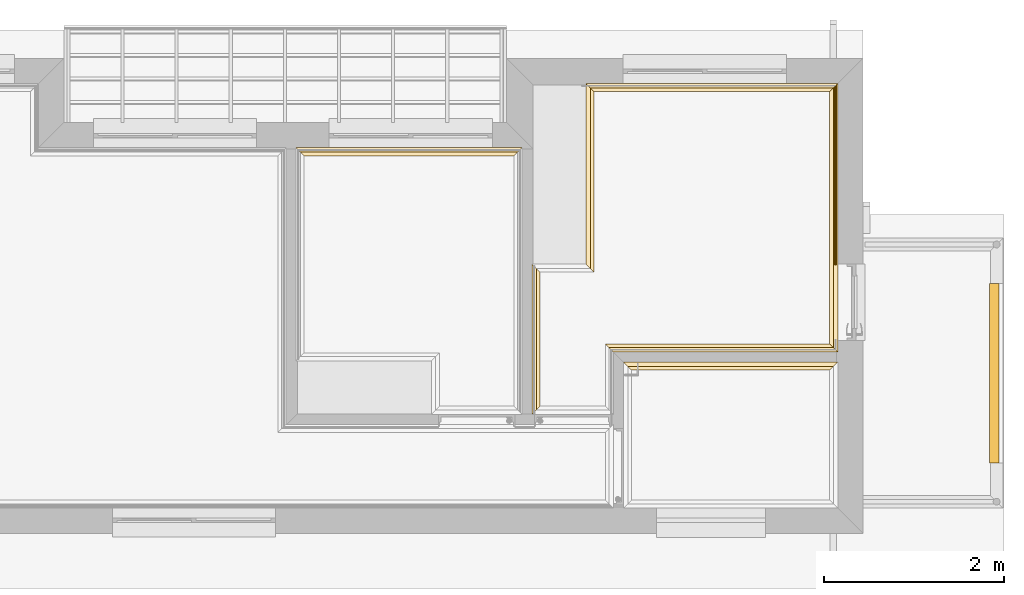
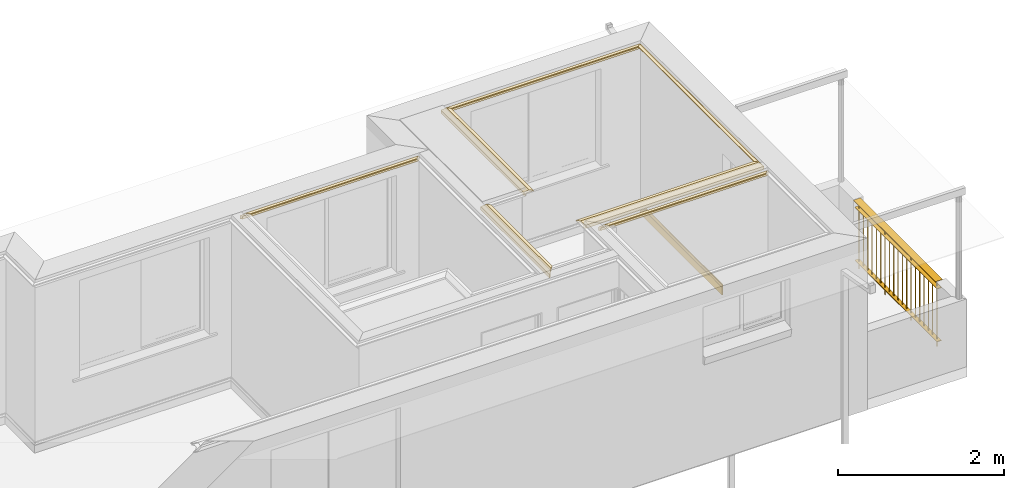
# One storey, part 14 of 18: 8 coverings, 1 railing.
"""IFC2X3 building model written with IfcOpenShell, lengths in millimetres."""

from ifc_helpers import new_model, entity, si_unit, converted_unit, money_unit, direction, frame, origin_with_axes, place, context, subcontext, project, spatial, faceted_brep, source, transform, mapped, material, type_object, element, save


model = new_model("IFC2X3")

# Units and contexts
model_context = context("Model", 3, precision=1e-05, world=origin_with_axes(), true_north=direction((0.0, 1.0)))
body_context = subcontext(model_context, "Body", "Model", "MODEL_VIEW")
ifc_project = project(units=[si_unit("LENGTHUNIT", "METRE", prefix="MILLI"), si_unit("AREAUNIT", "SQUARE_METRE"), si_unit("VOLUMEUNIT", "CUBIC_METRE"), converted_unit("PLANEANGLEUNIT", "DEGREE", entity("IfcPlaneAngleMeasure", 0.0174532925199), si_unit("PLANEANGLEUNIT", "RADIAN"), dimensions=[0, 0, 0, 0, 0, 0, 0]), si_unit("SOLIDANGLEUNIT", "STERADIAN"), money_unit("AUD"), si_unit("TIMEUNIT", "SECOND"), si_unit("MASSUNIT", "GRAM"), si_unit("THERMODYNAMICTEMPERATUREUNIT", "DEGREE_CELSIUS"), si_unit("LUMINOUSINTENSITYUNIT", "LUMEN")], contexts=[model_context])

# Site, building, storey
site_placement = place(None, origin_with_axes())
site = spatial("IfcSite", under=ifc_project, at=site_placement, Name="Lot 1. East Hills", CompositionType="ELEMENT")
building_placement = place(site_placement, origin_with_axes())
building = spatial("IfcBuilding", under=site, at=building_placement, Name="Proposed Units 7 & 8", CompositionType="ELEMENT")
storey_placement = place(building_placement, frame((0.0, 0.0, 5859.0), z_axis=(0.0, 0.0, 1.0), x_axis=(1.0, 0.0, 0.0)))
storey = spatial("IfcBuildingStorey", under=building, at=storey_placement, Name="Level 1", CompositionType="ELEMENT", Elevation=5859.0)

# Coverings
ifc_material = material(Name="50 %")
covering_type = type_object("IfcCoveringType", Name="Molding Straight 12", PredefinedType="NOTDEFINED")
shared_shape_1 = source(origin_with_axes(), body_context, "Body", "Brep", [
    faceted_brep([(-2000.00046616, 0.0, -97.7142857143), (0.0, 0.0, -97.7142857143), (-20.5714285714, -20.5714285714, -97.7142857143), (-2020.57189473, -20.5714285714, -97.7142857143), (-2000.00046616, 0.0, -48.8571428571), (0.0, 0.0, -48.8571428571), (-48.8571428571, -48.8571428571, 0.0), (-90.0, -90.0, 0.0), (-90.0, -90.0, -12.8571428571), (-74.5714285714, -74.5714285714, -12.8571428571), (-74.5714285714, -74.5714285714, -25.7142857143), (-60.5952001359, -60.5952001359, -27.5542910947), (-47.5714285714, -47.5714285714, -32.9489139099), (-36.3876623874, -36.3876623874, -41.5305195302), (-27.8060567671, -27.8060567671, -52.7142857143), (-22.4114339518, -22.4114339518, -65.7380572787), (-20.5714285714, -20.5714285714, -79.7142857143), (-2020.57189473, -20.5714285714, -79.7142857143), (-2022.41190011, -22.4114339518, -65.7380572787), (-2027.80652293, -27.8060567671, -52.7142857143), (-2036.38812855, -36.3876623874, -41.5305195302), (-2047.57189473, -47.5714285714, -32.9489139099), (-2060.5956663, -60.5952001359, -27.5542910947), (-2074.57189473, -74.5714285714, -25.7142857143), (-2074.57189473, -74.5714285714, -12.8571428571), (-2090.00046616, -90.0, -12.8571428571), (-2090.00046616, -90.0, 0.0), (-2048.85760902, -48.8571428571, 0.0)], [[[0, 1, 2, 3]], [[4, 5, 1, 0]], [[1, 5, 6, 7, 8, 9, 10, 11, 12, 13, 14, 15, 16, 2]], [[3, 2, 16, 17]], [[0, 3, 17, 18, 19, 20, 21, 22, 23, 24, 25, 26, 27, 4]], [[27, 6, 5, 4]], [[26, 7, 6, 27]], [[25, 8, 7, 26]], [[24, 9, 8, 25]], [[23, 10, 9, 24]], [[22, 11, 10, 23]], [[21, 12, 11, 22]], [[20, 13, 12, 21]], [[19, 14, 13, 20]], [[18, 15, 14, 19]], [[17, 16, 15, 18]]]),
])
covering_1_placement = place(storey_placement, frame((12760.6569851, 4983.00000067, 2523.0), z_axis=(0.0, 0.0, 1.0), x_axis=(0.0, 1.0, 0.0)))
element("IfcCovering", 1, at=covering_1_placement, inside=storey, type_object=covering_type, material=ifc_material, Name="CEL_MOD_127 - Molding Straight 12 - object -", PredefinedType="NOTDEFINED", context=body_context, shape_type="MappedRepresentation", body=[
    mapped(shared_shape_1, transform((0.0, 0.0, 0.0))),
])
shared_shape_2 = source(origin_with_axes(), body_context, "Body", "Brep", [
    faceted_brep([(-2505.00000164, 0.0, -97.7142857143), (0.0, 0.0, -97.7142857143), (-20.5714285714, -20.5714285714, -97.7142857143), (-2484.42857307, -20.5714285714, -97.7142857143), (-2505.00000164, 0.0, -48.8571428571), (0.0, 0.0, -48.8571428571), (-48.8571428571, -48.8571428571, 0.0), (-90.0, -90.0, 0.0), (-90.0, -90.0, -12.8571428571), (-74.5714285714, -74.5714285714, -12.8571428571), (-74.5714285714, -74.5714285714, -25.7142857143), (-60.5952001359, -60.5952001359, -27.5542910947), (-47.5714285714, -47.5714285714, -32.9489139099), (-36.3876623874, -36.3876623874, -41.5305195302), (-27.8060567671, -27.8060567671, -52.7142857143), (-22.4114339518, -22.4114339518, -65.7380572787), (-20.5714285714, -20.5714285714, -79.7142857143), (-2484.42857307, -20.5714285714, -79.7142857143), (-2482.58856769, -22.4114339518, -65.7380572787), (-2477.19394487, -27.8060567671, -52.7142857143), (-2468.61233925, -36.3876623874, -41.5305195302), (-2457.42857307, -47.5714285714, -32.9489139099), (-2444.4048015, -60.5952001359, -27.5542910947), (-2430.42857307, -74.5714285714, -25.7142857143), (-2430.42857307, -74.5714285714, -12.8571428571), (-2415.00000164, -90.0, -12.8571428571), (-2415.00000164, -90.0, 0.0), (-2456.14285878, -48.8571428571, 0.0)], [[[0, 1, 2, 3]], [[4, 5, 1, 0]], [[1, 5, 6, 7, 8, 9, 10, 11, 12, 13, 14, 15, 16, 2]], [[3, 2, 16, 17]], [[0, 3, 17, 18, 19, 20, 21, 22, 23, 24, 25, 26, 27, 4]], [[27, 6, 5, 4]], [[26, 7, 6, 27]], [[25, 8, 7, 26]], [[24, 9, 8, 25]], [[23, 10, 9, 24]], [[22, 11, 10, 23]], [[21, 12, 11, 22]], [[20, 13, 12, 21]], [[19, 14, 13, 20]], [[18, 15, 14, 19]], [[17, 16, 15, 18]]]),
])
covering_2_placement = place(storey_placement, frame((12050.0000006, 4273.00000069, 2523.0), z_axis=(0.0, 0.0, 1.0), x_axis=(1.0, 0.0, 0.0)))
element("IfcCovering", 2, at=covering_2_placement, inside=storey, type_object=covering_type, material=ifc_material, Name="CEL_MOD_122 - Molding Straight 12 - object -", PredefinedType="NOTDEFINED", context=body_context, shape_type="MappedRepresentation", body=[
    mapped(shared_shape_2, transform((0.0, 0.0, 0.0))),
])
shared_shape_3 = source(origin_with_axes(), body_context, "Body", "Brep", [
    faceted_brep([(-2374.99999946, 0.0, -97.7142857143), (0.0, 0.0, -97.7142857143), (-20.5714285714, -20.5714285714, -97.7142857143), (-2354.42857089, -20.5714285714, -97.7142857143), (-2374.99999946, 0.0, -48.8571428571), (0.0, 0.0, -48.8571428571), (-48.8571428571, -48.8571428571, 0.0), (-90.0, -90.0, 0.0), (-90.0, -90.0, -12.8571428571), (-74.5714285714, -74.5714285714, -12.8571428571), (-74.5714285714, -74.5714285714, -25.7142857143), (-60.5952001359, -60.5952001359, -27.5542910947), (-47.5714285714, -47.5714285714, -32.9489139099), (-36.3876623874, -36.3876623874, -41.5305195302), (-27.8060567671, -27.8060567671, -52.7142857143), (-22.4114339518, -22.4114339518, -65.7380572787), (-20.5714285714, -20.5714285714, -79.7142857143), (-2354.42857089, -20.5714285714, -79.7142857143), (-2352.58856551, -22.4114339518, -65.7380572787), (-2347.1939427, -27.8060567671, -52.7142857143), (-2338.61233708, -36.3876623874, -41.5305195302), (-2327.42857089, -47.5714285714, -32.9489139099), (-2314.40479933, -60.5952001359, -27.5542910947), (-2300.42857089, -74.5714285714, -25.7142857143), (-2300.42857089, -74.5714285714, -12.8571428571), (-2284.99999946, -90.0, -12.8571428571), (-2284.99999946, -90.0, 0.0), (-2326.14285661, -48.8571428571, 0.0)], [[[0, 1, 2, 3]], [[4, 5, 1, 0]], [[1, 5, 6, 7, 8, 9, 10, 11, 12, 13, 14, 15, 16, 2]], [[3, 2, 16, 17]], [[0, 3, 17, 18, 19, 20, 21, 22, 23, 24, 25, 26, 27, 4]], [[27, 6, 5, 4]], [[26, 7, 6, 27]], [[25, 8, 7, 26]], [[24, 9, 8, 25]], [[23, 10, 9, 24]], [[22, 11, 10, 23]], [[21, 12, 11, 22]], [[20, 13, 12, 21]], [[19, 14, 13, 20]], [[18, 15, 14, 19]], [[17, 16, 15, 18]]]),
])
covering_3_placement = place(storey_placement, frame((15549.9999992, 1897.99999873, 2523.0), z_axis=(0.0, 0.0, 1.0), x_axis=(1.0, 0.0, 0.0)))
element("IfcCovering", 3, at=covering_3_placement, inside=storey, type_object=covering_type, material=ifc_material, Name="CEL_MOD_119 - Molding Straight 12 - object -", PredefinedType="NOTDEFINED", context=body_context, shape_type="MappedRepresentation", body=[
    mapped(shared_shape_3, transform((0.0, 0.0, 0.0))),
])
shared_shape_4 = source(origin_with_axes(), body_context, "Body", "Brep", [
    faceted_brep([(2975.00000194, 0.0, -97.7142857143), (2954.42857337, -20.5714285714, -97.7142857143), (20.5714285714, -20.5714285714, -97.7142857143), (0.0, 0.0, -97.7142857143), (2975.00000194, 0.0, -48.8571428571), (2926.14285908, -48.8571428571, 0.0), (2885.00000194, -90.0, 0.0), (2885.00000194, -90.0, -12.8571428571), (2900.42857337, -74.5714285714, -12.8571428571), (2900.42857337, -74.5714285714, -25.7142857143), (2914.4048018, -60.5952001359, -27.5542910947), (2927.42857337, -47.5714285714, -32.9489139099), (2938.61233955, -36.3876623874, -41.5305195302), (2947.19394517, -27.8060567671, -52.7142857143), (2952.58856799, -22.4114339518, -65.7380572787), (2954.42857337, -20.5714285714, -79.7142857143), (20.5714285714, -20.5714285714, -79.7142857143), (22.4114339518, -22.4114339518, -65.7380572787), (27.8060567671, -27.8060567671, -52.7142857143), (36.3876623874, -36.3876623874, -41.5305195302), (47.5714285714, -47.5714285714, -32.9489139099), (60.5952001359, -60.5952001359, -27.5542910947), (74.5714285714, -74.5714285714, -25.7142857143), (74.5714285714, -74.5714285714, -12.8571428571), (90.0, -90.0, -12.8571428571), (90.0, -90.0, 0.0), (48.8571428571, -48.8571428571, 0.0), (0.0, 0.0, -48.8571428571)], [[[0, 1, 2, 3]], [[0, 4, 5, 6, 7, 8, 9, 10, 11, 12, 13, 14, 15, 1]], [[1, 15, 16, 2]], [[3, 2, 16, 17, 18, 19, 20, 21, 22, 23, 24, 25, 26, 27]], [[4, 0, 3, 27]], [[5, 4, 27, 26]], [[6, 5, 26, 25]], [[7, 6, 25, 24]], [[8, 7, 24, 23]], [[9, 8, 23, 22]], [[10, 9, 22, 21]], [[11, 10, 21, 20]], [[12, 11, 20, 19]], [[13, 12, 19, 18]], [[14, 13, 18, 17]], [[15, 14, 17, 16]]]),
])
covering_4_placement = place(storey_placement, frame((15550.0000007, 4983.00000067, 2523.0), z_axis=(0.0, 0.0, 1.0), x_axis=(0.0, -1.0, 0.0)))
element("IfcCovering", 4, at=covering_4_placement, inside=storey, type_object=covering_type, material=ifc_material, Name="CEL_MOD_106 - Molding Straight 12 - object -", PredefinedType="NOTDEFINED", context=body_context, shape_type="MappedRepresentation", body=[
    mapped(shared_shape_4, transform((0.0, 0.0, 0.0))),
])
shared_shape_5 = source(origin_with_axes(), body_context, "Body", "Brep", [
    faceted_brep([(2485.00000008, 0.0, -97.7142857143), (2505.57142865, -20.5714285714, -97.7142857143), (20.5714285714, -20.5714285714, -97.7142857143), (0.0, 0.0, -97.7142857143), (2485.00000008, 0.0, -48.8571428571), (2533.85714293, -48.8571428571, 0.0), (2575.00000008, -90.0, 0.0), (2575.00000008, -90.0, -12.8571428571), (2559.57142865, -74.5714285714, -12.8571428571), (2559.57142865, -74.5714285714, -25.7142857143), (2545.59520021, -60.5952001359, -27.5542910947), (2532.57142865, -47.5714285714, -32.9489139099), (2521.38766246, -36.3876623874, -41.5305195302), (2512.80605684, -27.8060567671, -52.7142857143), (2507.41143403, -22.4114339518, -65.7380572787), (2505.57142865, -20.5714285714, -79.7142857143), (20.5714285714, -20.5714285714, -79.7142857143), (22.4114339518, -22.4114339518, -65.7380572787), (27.8060567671, -27.8060567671, -52.7142857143), (36.3876623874, -36.3876623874, -41.5305195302), (47.5714285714, -47.5714285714, -32.9489139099), (60.5952001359, -60.5952001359, -27.5542910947), (74.5714285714, -74.5714285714, -25.7142857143), (74.5714285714, -74.5714285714, -12.8571428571), (90.0, -90.0, -12.8571428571), (90.0, -90.0, 0.0), (48.8571428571, -48.8571428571, 0.0), (0.0, 0.0, -48.8571428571)], [[[0, 1, 2, 3]], [[0, 4, 5, 6, 7, 8, 9, 10, 11, 12, 13, 14, 15, 1]], [[1, 15, 16, 2]], [[3, 2, 16, 17, 18, 19, 20, 21, 22, 23, 24, 25, 26, 27]], [[4, 0, 3, 27]], [[5, 4, 27, 26]], [[6, 5, 26, 25]], [[7, 6, 25, 24]], [[8, 7, 24, 23]], [[9, 8, 23, 22]], [[10, 9, 22, 21]], [[11, 10, 21, 20]], [[12, 11, 20, 19]], [[13, 12, 19, 18]], [[14, 13, 18, 17]], [[15, 14, 17, 16]]]),
])
covering_5_placement = place(storey_placement, frame((15550.0000007, 2007.99999873, 2523.0), z_axis=(0.0, 0.0, 1.0), x_axis=(-1.0, 0.0, 0.0)))
element("IfcCovering", 5, at=covering_5_placement, inside=storey, type_object=covering_type, material=ifc_material, Name="CEL_MOD_105 - Molding Straight 12 - object -", PredefinedType="NOTDEFINED", context=body_context, shape_type="MappedRepresentation", body=[
    mapped(shared_shape_5, transform((0.0, 0.0, 0.0))),
])
shared_shape_6 = source(origin_with_axes(), body_context, "Body", "Brep", [
    faceted_brep([(-2789.34301628, 0.0, -97.7142857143), (0.0, 0.0, -97.7142857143), (-20.5714285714, -20.5714285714, -97.7142857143), (-2768.77158771, -20.5714285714, -97.7142857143), (-2789.34301628, 0.0, -48.8571428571), (0.0, 0.0, -48.8571428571), (-48.8571428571, -48.8571428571, 0.0), (-90.0, -90.0, 0.0), (-90.0, -90.0, -12.8571428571), (-74.5714285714, -74.5714285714, -12.8571428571), (-74.5714285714, -74.5714285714, -25.7142857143), (-60.5952001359, -60.5952001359, -27.5542910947), (-47.5714285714, -47.5714285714, -32.9489139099), (-36.3876623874, -36.3876623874, -41.5305195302), (-27.8060567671, -27.8060567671, -52.7142857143), (-22.4114339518, -22.4114339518, -65.7380572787), (-20.5714285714, -20.5714285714, -79.7142857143), (-2768.77158771, -20.5714285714, -79.7142857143), (-2766.93158233, -22.4114339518, -65.7380572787), (-2761.53695951, -27.8060567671, -52.7142857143), (-2752.95535389, -36.3876623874, -41.5305195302), (-2741.77158771, -47.5714285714, -32.9489139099), (-2728.74781615, -60.5952001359, -27.5542910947), (-2714.77158771, -74.5714285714, -25.7142857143), (-2714.77158771, -74.5714285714, -12.8571428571), (-2699.34301628, -90.0, -12.8571428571), (-2699.34301628, -90.0, 0.0), (-2740.48587342, -48.8571428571, 0.0)], [[[0, 1, 2, 3]], [[4, 5, 1, 0]], [[1, 5, 6, 7, 8, 9, 10, 11, 12, 13, 14, 15, 16, 2]], [[3, 2, 16, 17]], [[0, 3, 17, 18, 19, 20, 21, 22, 23, 24, 25, 26, 27, 4]], [[27, 6, 5, 4]], [[26, 7, 6, 27]], [[25, 8, 7, 26]], [[24, 9, 8, 25]], [[23, 10, 9, 24]], [[22, 11, 10, 23]], [[21, 12, 11, 22]], [[20, 13, 12, 21]], [[19, 14, 13, 20]], [[18, 15, 14, 19]], [[17, 16, 15, 18]]]),
])
covering_6_placement = place(storey_placement, frame((15550.0000007, 4983.00000067, 2523.0), z_axis=(0.0, 0.0, 1.0), x_axis=(1.0, 0.0, 0.0)))
element("IfcCovering", 6, at=covering_6_placement, inside=storey, type_object=covering_type, material=ifc_material, Name="CEL_MOD_102 - Molding Straight 12 - object -", PredefinedType="NOTDEFINED", context=body_context, shape_type="MappedRepresentation", body=[
    mapped(shared_shape_6, transform((0.0, 0.0, 0.0))),
])
shared_shape_7 = source(origin_with_axes(), body_context, "Body", "Brep", [
    faceted_brep([(-1664.99953466, 0.0, -97.7142857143), (0.0, 0.0, -97.7142857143), (-20.5714285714, -20.5714285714, -97.7142857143), (-1644.42810609, -20.5714285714, -97.7142857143), (-1664.99953466, 0.0, -48.8571428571), (0.0, 0.0, -48.8571428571), (-48.8571428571, -48.8571428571, 0.0), (-90.0, -90.0, 0.0), (-90.0, -90.0, -12.8571428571), (-74.5714285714, -74.5714285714, -12.8571428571), (-74.5714285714, -74.5714285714, -25.7142857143), (-60.5952001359, -60.5952001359, -27.5542910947), (-47.5714285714, -47.5714285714, -32.9489139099), (-36.3876623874, -36.3876623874, -41.5305195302), (-27.8060567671, -27.8060567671, -52.7142857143), (-22.4114339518, -22.4114339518, -65.7380572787), (-20.5714285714, -20.5714285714, -79.7142857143), (-1644.42810609, -20.5714285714, -79.7142857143), (-1642.5881007, -22.4114339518, -65.7380572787), (-1637.19347789, -27.8060567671, -52.7142857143), (-1628.61187227, -36.3876623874, -41.5305195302), (-1617.42810609, -47.5714285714, -32.9489139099), (-1604.40433452, -60.5952001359, -27.5542910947), (-1590.42810609, -74.5714285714, -25.7142857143), (-1590.42810609, -74.5714285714, -12.8571428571), (-1574.99953466, -90.0, -12.8571428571), (-1574.99953466, -90.0, 0.0), (-1616.1423918, -48.8571428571, 0.0)], [[[0, 1, 2, 3]], [[4, 5, 1, 0]], [[1, 5, 6, 7, 8, 9, 10, 11, 12, 13, 14, 15, 16, 2]], [[3, 2, 16, 17]], [[0, 3, 17, 18, 19, 20, 21, 22, 23, 24, 25, 26, 27, 4]], [[27, 6, 5, 4]], [[26, 7, 6, 27]], [[25, 8, 7, 26]], [[24, 9, 8, 25]], [[23, 10, 9, 24]], [[22, 11, 10, 23]], [[21, 12, 11, 22]], [[20, 13, 12, 21]], [[19, 14, 13, 20]], [[18, 15, 14, 19]], [[17, 16, 15, 18]]]),
])
covering_7_placement = place(storey_placement, frame((12159.9999993, 2982.99953451, 2523.0), z_axis=(0.0, 0.0, 1.0), x_axis=(0.0, 1.0, 0.0)))
element("IfcCovering", 7, at=covering_7_placement, inside=storey, type_object=covering_type, material=ifc_material, Name="CEL_MOD_101 - Molding Straight 12 - object -", PredefinedType="NOTDEFINED", context=body_context, shape_type="MappedRepresentation", body=[
    mapped(shared_shape_7, transform((0.0, 0.0, 0.0))),
])

# Railing
railing_type = type_object("IfcRailingType", Name="Railing Vertical 12", PredefinedType="NOTDEFINED")
shared_shape_8 = source(origin_with_axes(), body_context, "Body", "Brep", [
    faceted_brep([(0.0, -50.0, 990.0), (1986.11477743, -50.0, 990.0), (1986.11477743, -50.0, 1000.0), (0.0, -50.0, 1000.0), (0.0, 50.0, 990.0), (1986.11477743, 50.0, 990.0), (1986.11477743, 50.0, 1000.0), (0.0, 50.0, 1000.0)], [[[0, 1, 2, 3]], [[0, 4, 5, 1]], [[1, 5, 6, 2]], [[3, 2, 6, 7]], [[4, 0, 3, 7]], [[5, 4, 7, 6]]]),
    faceted_brep([(0.0, -30.0, 880.0), (1986.11477743, -30.0, 880.0), (1986.11477743, -30.0, 890.0), (0.0, -30.0, 890.0), (0.0, 30.0, 880.0), (1986.11477743, 30.0, 880.0), (1986.11477743, 30.0, 890.0), (0.0, 30.0, 890.0)], [[[0, 1, 2, 3]], [[0, 4, 5, 1]], [[1, 5, 6, 2]], [[3, 2, 6, 7]], [[4, 0, 3, 7]], [[5, 4, 7, 6]]]),
    faceted_brep([(0.0, -30.0, 100.0), (1986.11477743, -30.0, 100.0), (1986.11477743, -30.0, 110.0), (0.0, -30.0, 110.0), (0.0, 30.0, 100.0), (1986.11477743, 30.0, 100.0), (1986.11477743, 30.0, 110.0), (0.0, 30.0, 110.0)], [[[0, 1, 2, 3]], [[0, 4, 5, 1]], [[1, 5, 6, 2]], [[3, 2, 6, 7]], [[4, 0, 3, 7]], [[5, 4, 7, 6]]]),
    faceted_brep([(47.2661783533, -5.0, 110.0), (57.2661783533, -5.0, 110.0), (57.2661783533, -5.0, 880.0), (47.2661783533, -5.0, 880.0), (47.2661783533, 5.0, 110.0), (57.2661783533, 5.0, 110.0), (57.2661783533, 5.0, 880.0), (47.2661783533, 5.0, 880.0)], [[[0, 1, 2, 3]], [[0, 4, 5, 1]], [[1, 5, 6, 2]], [[3, 2, 6, 7]], [[4, 0, 3, 7]], [[5, 4, 7, 6]]]),
    faceted_brep([(151.79853506, -5.0, 110.0), (161.79853506, -5.0, 110.0), (161.79853506, -5.0, 880.0), (151.79853506, -5.0, 880.0), (151.79853506, 5.0, 110.0), (161.79853506, 5.0, 110.0), (161.79853506, 5.0, 880.0), (151.79853506, 5.0, 880.0)], [[[0, 1, 2, 3]], [[0, 4, 5, 1]], [[1, 5, 6, 2]], [[3, 2, 6, 7]], [[4, 0, 3, 7]], [[5, 4, 7, 6]]]),
    faceted_brep([(256.330891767, -5.0, 110.0), (266.330891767, -5.0, 110.0), (266.330891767, -5.0, 880.0), (256.330891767, -5.0, 880.0), (256.330891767, 5.0, 110.0), (266.330891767, 5.0, 110.0), (266.330891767, 5.0, 880.0), (256.330891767, 5.0, 880.0)], [[[0, 1, 2, 3]], [[0, 4, 5, 1]], [[1, 5, 6, 2]], [[3, 2, 6, 7]], [[4, 0, 3, 7]], [[5, 4, 7, 6]]]),
    faceted_brep([(360.863248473, -5.0, 110.0), (370.863248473, -5.0, 110.0), (370.863248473, -5.0, 880.0), (360.863248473, -5.0, 880.0), (360.863248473, 5.0, 110.0), (370.863248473, 5.0, 110.0), (370.863248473, 5.0, 880.0), (360.863248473, 5.0, 880.0)], [[[0, 1, 2, 3]], [[0, 4, 5, 1]], [[1, 5, 6, 2]], [[3, 2, 6, 7]], [[4, 0, 3, 7]], [[5, 4, 7, 6]]]),
    faceted_brep([(465.39560518, -5.0, 110.0), (475.39560518, -5.0, 110.0), (475.39560518, -5.0, 880.0), (465.39560518, -5.0, 880.0), (465.39560518, 5.0, 110.0), (475.39560518, 5.0, 110.0), (475.39560518, 5.0, 880.0), (465.39560518, 5.0, 880.0)], [[[0, 1, 2, 3]], [[0, 4, 5, 1]], [[1, 5, 6, 2]], [[3, 2, 6, 7]], [[4, 0, 3, 7]], [[5, 4, 7, 6]]]),
    faceted_brep([(569.927961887, -5.0, 110.0), (579.927961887, -5.0, 110.0), (579.927961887, -5.0, 880.0), (569.927961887, -5.0, 880.0), (569.927961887, 5.0, 110.0), (579.927961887, 5.0, 110.0), (579.927961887, 5.0, 880.0), (569.927961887, 5.0, 880.0)], [[[0, 1, 2, 3]], [[0, 4, 5, 1]], [[1, 5, 6, 2]], [[3, 2, 6, 7]], [[4, 0, 3, 7]], [[5, 4, 7, 6]]]),
    faceted_brep([(674.460318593, -5.0, 110.0), (684.460318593, -5.0, 110.0), (684.460318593, -5.0, 880.0), (674.460318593, -5.0, 880.0), (674.460318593, 5.0, 110.0), (684.460318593, 5.0, 110.0), (684.460318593, 5.0, 880.0), (674.460318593, 5.0, 880.0)], [[[0, 1, 2, 3]], [[0, 4, 5, 1]], [[1, 5, 6, 2]], [[3, 2, 6, 7]], [[4, 0, 3, 7]], [[5, 4, 7, 6]]]),
    faceted_brep([(778.9926753, -5.0, 110.0), (788.9926753, -5.0, 110.0), (788.9926753, -5.0, 880.0), (778.9926753, -5.0, 880.0), (778.9926753, 5.0, 110.0), (788.9926753, 5.0, 110.0), (788.9926753, 5.0, 880.0), (778.9926753, 5.0, 880.0)], [[[0, 1, 2, 3]], [[0, 4, 5, 1]], [[1, 5, 6, 2]], [[3, 2, 6, 7]], [[4, 0, 3, 7]], [[5, 4, 7, 6]]]),
    faceted_brep([(883.525032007, -5.0, 110.0), (893.525032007, -5.0, 110.0), (893.525032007, -5.0, 880.0), (883.525032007, -5.0, 880.0), (883.525032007, 5.0, 110.0), (893.525032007, 5.0, 110.0), (893.525032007, 5.0, 880.0), (883.525032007, 5.0, 880.0)], [[[0, 1, 2, 3]], [[0, 4, 5, 1]], [[1, 5, 6, 2]], [[3, 2, 6, 7]], [[4, 0, 3, 7]], [[5, 4, 7, 6]]]),
    faceted_brep([(988.057388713, -5.0, 110.0), (998.057388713, -5.0, 110.0), (998.057388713, -5.0, 880.0), (988.057388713, -5.0, 880.0), (988.057388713, 5.0, 110.0), (998.057388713, 5.0, 110.0), (998.057388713, 5.0, 880.0), (988.057388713, 5.0, 880.0)], [[[0, 1, 2, 3]], [[0, 4, 5, 1]], [[1, 5, 6, 2]], [[3, 2, 6, 7]], [[4, 0, 3, 7]], [[5, 4, 7, 6]]]),
    faceted_brep([(1092.58974542, -5.0, 110.0), (1102.58974542, -5.0, 110.0), (1102.58974542, -5.0, 880.0), (1092.58974542, -5.0, 880.0), (1092.58974542, 5.0, 110.0), (1102.58974542, 5.0, 110.0), (1102.58974542, 5.0, 880.0), (1092.58974542, 5.0, 880.0)], [[[0, 1, 2, 3]], [[0, 4, 5, 1]], [[1, 5, 6, 2]], [[3, 2, 6, 7]], [[4, 0, 3, 7]], [[5, 4, 7, 6]]]),
    faceted_brep([(1197.12210213, -5.0, 110.0), (1207.12210213, -5.0, 110.0), (1207.12210213, -5.0, 880.0), (1197.12210213, -5.0, 880.0), (1197.12210213, 5.0, 110.0), (1207.12210213, 5.0, 110.0), (1207.12210213, 5.0, 880.0), (1197.12210213, 5.0, 880.0)], [[[0, 1, 2, 3]], [[0, 4, 5, 1]], [[1, 5, 6, 2]], [[3, 2, 6, 7]], [[4, 0, 3, 7]], [[5, 4, 7, 6]]]),
    faceted_brep([(1301.65445883, -5.0, 110.0), (1311.65445883, -5.0, 110.0), (1311.65445883, -5.0, 880.0), (1301.65445883, -5.0, 880.0), (1301.65445883, 5.0, 110.0), (1311.65445883, 5.0, 110.0), (1311.65445883, 5.0, 880.0), (1301.65445883, 5.0, 880.0)], [[[0, 1, 2, 3]], [[0, 4, 5, 1]], [[1, 5, 6, 2]], [[3, 2, 6, 7]], [[4, 0, 3, 7]], [[5, 4, 7, 6]]]),
    faceted_brep([(1406.18681554, -5.0, 110.0), (1416.18681554, -5.0, 110.0), (1416.18681554, -5.0, 880.0), (1406.18681554, -5.0, 880.0), (1406.18681554, 5.0, 110.0), (1416.18681554, 5.0, 110.0), (1416.18681554, 5.0, 880.0), (1406.18681554, 5.0, 880.0)], [[[0, 1, 2, 3]], [[0, 4, 5, 1]], [[1, 5, 6, 2]], [[3, 2, 6, 7]], [[4, 0, 3, 7]], [[5, 4, 7, 6]]]),
    faceted_brep([(1510.71917225, -5.0, 110.0), (1520.71917225, -5.0, 110.0), (1520.71917225, -5.0, 880.0), (1510.71917225, -5.0, 880.0), (1510.71917225, 5.0, 110.0), (1520.71917225, 5.0, 110.0), (1520.71917225, 5.0, 880.0), (1510.71917225, 5.0, 880.0)], [[[0, 1, 2, 3]], [[0, 4, 5, 1]], [[1, 5, 6, 2]], [[3, 2, 6, 7]], [[4, 0, 3, 7]], [[5, 4, 7, 6]]]),
    faceted_brep([(1615.25152895, -5.0, 110.0), (1625.25152895, -5.0, 110.0), (1625.25152895, -5.0, 880.0), (1615.25152895, -5.0, 880.0), (1615.25152895, 5.0, 110.0), (1625.25152895, 5.0, 110.0), (1625.25152895, 5.0, 880.0), (1615.25152895, 5.0, 880.0)], [[[0, 1, 2, 3]], [[0, 4, 5, 1]], [[1, 5, 6, 2]], [[3, 2, 6, 7]], [[4, 0, 3, 7]], [[5, 4, 7, 6]]]),
    faceted_brep([(1719.78388566, -5.0, 110.0), (1729.78388566, -5.0, 110.0), (1729.78388566, -5.0, 880.0), (1719.78388566, -5.0, 880.0), (1719.78388566, 5.0, 110.0), (1729.78388566, 5.0, 110.0), (1729.78388566, 5.0, 880.0), (1719.78388566, 5.0, 880.0)], [[[0, 1, 2, 3]], [[0, 4, 5, 1]], [[1, 5, 6, 2]], [[3, 2, 6, 7]], [[4, 0, 3, 7]], [[5, 4, 7, 6]]]),
    faceted_brep([(1824.31624237, -5.0, 110.0), (1834.31624237, -5.0, 110.0), (1834.31624237, -5.0, 880.0), (1824.31624237, -5.0, 880.0), (1824.31624237, 5.0, 110.0), (1834.31624237, 5.0, 110.0), (1834.31624237, 5.0, 880.0), (1824.31624237, 5.0, 880.0)], [[[0, 1, 2, 3]], [[0, 4, 5, 1]], [[1, 5, 6, 2]], [[3, 2, 6, 7]], [[4, 0, 3, 7]], [[5, 4, 7, 6]]]),
    faceted_brep([(1928.84859907, -5.0, 110.0), (1938.84859907, -5.0, 110.0), (1938.84859907, -5.0, 880.0), (1928.84859907, -5.0, 880.0), (1928.84859907, 5.0, 110.0), (1938.84859907, 5.0, 110.0), (1938.84859907, 5.0, 880.0), (1928.84859907, 5.0, 880.0)], [[[0, 1, 2, 3]], [[0, 4, 5, 1]], [[1, 5, 6, 2]], [[3, 2, 6, 7]], [[4, 0, 3, 7]], [[5, 4, 7, 6]]]),
    faceted_brep([(47.2661783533, -5.0, 0.0), (57.2661783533, -5.0, 0.0), (57.2661783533, -5.0, 100.0), (47.2661783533, -5.0, 100.0), (47.2661783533, 5.0, 0.0), (57.2661783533, 5.0, 0.0), (57.2661783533, 5.0, 100.0), (47.2661783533, 5.0, 100.0)], [[[0, 1, 2, 3]], [[0, 4, 5, 1]], [[1, 5, 6, 2]], [[3, 2, 6, 7]], [[4, 0, 3, 7]], [[5, 4, 7, 6]]]),
    faceted_brep([(674.460318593, -5.0, 0.0), (684.460318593, -5.0, 0.0), (684.460318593, -5.0, 100.0), (674.460318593, -5.0, 100.0), (674.460318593, 5.0, 0.0), (684.460318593, 5.0, 0.0), (684.460318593, 5.0, 100.0), (674.460318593, 5.0, 100.0)], [[[0, 1, 2, 3]], [[0, 4, 5, 1]], [[1, 5, 6, 2]], [[3, 2, 6, 7]], [[4, 0, 3, 7]], [[5, 4, 7, 6]]]),
    faceted_brep([(1301.65445883, -5.0, 0.0), (1311.65445883, -5.0, 0.0), (1311.65445883, -5.0, 100.0), (1301.65445883, -5.0, 100.0), (1301.65445883, 5.0, 0.0), (1311.65445883, 5.0, 0.0), (1311.65445883, 5.0, 100.0), (1301.65445883, 5.0, 100.0)], [[[0, 1, 2, 3]], [[0, 4, 5, 1]], [[1, 5, 6, 2]], [[3, 2, 6, 7]], [[4, 0, 3, 7]], [[5, 4, 7, 6]]]),
    faceted_brep([(1928.84859907, -5.0, 0.0), (1938.84859907, -5.0, 0.0), (1938.84859907, -5.0, 100.0), (1928.84859907, -5.0, 100.0), (1928.84859907, 5.0, 0.0), (1938.84859907, 5.0, 0.0), (1938.84859907, 5.0, 100.0), (1928.84859907, 5.0, 100.0)], [[[0, 1, 2, 3]], [[0, 4, 5, 1]], [[1, 5, 6, 2]], [[3, 2, 6, 7]], [[4, 0, 3, 7]], [[5, 4, 7, 6]]]),
    faceted_brep([(47.2661783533, -5.0, 890.0), (57.2661783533, -5.0, 890.0), (57.2661783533, -5.0, 990.0), (47.2661783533, -5.0, 990.0), (47.2661783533, 5.0, 890.0), (57.2661783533, 5.0, 890.0), (57.2661783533, 5.0, 990.0), (47.2661783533, 5.0, 990.0)], [[[0, 1, 2, 3]], [[0, 4, 5, 1]], [[1, 5, 6, 2]], [[3, 2, 6, 7]], [[4, 0, 3, 7]], [[5, 4, 7, 6]]]),
    faceted_brep([(674.460318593, -5.0, 890.0), (684.460318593, -5.0, 890.0), (684.460318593, -5.0, 990.0), (674.460318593, -5.0, 990.0), (674.460318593, 5.0, 890.0), (684.460318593, 5.0, 890.0), (684.460318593, 5.0, 990.0), (674.460318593, 5.0, 990.0)], [[[0, 1, 2, 3]], [[0, 4, 5, 1]], [[1, 5, 6, 2]], [[3, 2, 6, 7]], [[4, 0, 3, 7]], [[5, 4, 7, 6]]]),
    faceted_brep([(1301.65445883, -5.0, 890.0), (1311.65445883, -5.0, 890.0), (1311.65445883, -5.0, 990.0), (1301.65445883, -5.0, 990.0), (1301.65445883, 5.0, 890.0), (1311.65445883, 5.0, 890.0), (1311.65445883, 5.0, 990.0), (1301.65445883, 5.0, 990.0)], [[[0, 1, 2, 3]], [[0, 4, 5, 1]], [[1, 5, 6, 2]], [[3, 2, 6, 7]], [[4, 0, 3, 7]], [[5, 4, 7, 6]]]),
    faceted_brep([(1928.84859907, -5.0, 890.0), (1938.84859907, -5.0, 890.0), (1938.84859907, -5.0, 990.0), (1928.84859907, -5.0, 990.0), (1928.84859907, 5.0, 890.0), (1938.84859907, 5.0, 890.0), (1938.84859907, 5.0, 990.0), (1928.84859907, 5.0, 990.0)], [[[0, 1, 2, 3]], [[0, 4, 5, 1]], [[1, 5, 6, 2]], [[3, 2, 6, 7]], [[4, 0, 3, 7]], [[5, 4, 7, 6]]]),
])
railing_placement = place(storey_placement, frame((17283.8264912, 2766.11480961, -75.0), z_axis=(0.0, 0.0, 1.0), x_axis=(0.0, -1.0, 0.0)))
element("IfcRailing", 8, at=railing_placement, inside=storey, type_object=railing_type, material=ifc_material, Name="BALU - Railing Vertical 12 - object -", PredefinedType="NOTDEFINED", context=body_context, shape_type="MappedRepresentation", body=[
    mapped(shared_shape_8, transform((0.0, 0.0, 0.0))),
])

# Covering
shared_shape_9 = source(origin_with_axes(), body_context, "Body", "Brep", [
    faceted_brep([(1996.5408029, -19.0298507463, -150.0), (1996.5408029, -19.0298507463, -40.2985074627), (18.9658913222, -19.0298507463, -40.2985074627), (18.9658913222, -19.0298507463, -150.0), (1996.5408029, 0.0, -150.0), (1996.5408029, 0.0, -120.895522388), (1996.5408029, -2.23880597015, -118.656716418), (1996.5408029, -2.23880597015, -24.6268656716), (1996.5408029, 0.0, -22.3880597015), (1996.5408029, 0.0, 0.0), (1996.5408029, -6.71641791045, 0.0), (1996.5408029, -8.9552238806, -4.4776119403), (1996.5408029, -9.19197067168, -5.17383533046), (1996.5408029, -9.23315907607, -5.90805571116), (1996.5408029, -9.07576633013, -6.62638959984), (1996.5408029, -8.73134328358, -7.27611940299), (1996.5408029, -8.1712130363, -8.36014699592), (1996.5408029, -7.94776119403, -9.55970149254), (1996.5408029, -8.2485368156, -12.6066468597), (1996.5408029, -9.35788915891, -15.4603601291), (1996.5408029, -11.1940298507, -17.9104477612), (1996.5408029, -15.6211975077, -24.0923863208), (1996.5408029, -17.9104477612, -31.3432835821), (1996.5408029, -17.9257206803, -33.6342255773), (1996.5408029, -17.3014780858, -35.8385326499), (1996.5408029, -16.087254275, -37.7812907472), (1996.5408029, -14.3793991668, -39.3083399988), (1996.5408029, -12.3134328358, -40.2985074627), (12.2720473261, -12.3134328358, -40.2985074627), (14.3310699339, -14.3793991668, -39.3083399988), (16.0331849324, -16.087254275, -37.7812907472), (17.2433277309, -17.3014780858, -35.8385326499), (17.865472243, -17.9257206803, -33.6342255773), (17.8502506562, -17.9104477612, -31.3432835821), (15.5686945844, -15.6211975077, -24.0923863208), (11.1564066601, -11.1940298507, -17.9104477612), (9.32643724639, -9.35788915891, -15.4603601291), (8.22081344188, -8.2485368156, -12.6066468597), (7.92104872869, -7.94776119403, -9.55970149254), (8.1437495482, -8.1712130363, -8.36014699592), (8.7019971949, -8.73134328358, -7.27611940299), (9.04526263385, -9.07576633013, -6.62638959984), (9.20212638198, -9.23315907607, -5.90805571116), (9.16107641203, -9.19197067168, -5.17383533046), (8.9251253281, -8.9552238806, -4.4776119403), (6.69384399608, -6.71641791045, 0.0), (0.0, 0.0, 0.0), (0.0, 0.0, -22.3880597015), (2.23128133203, -2.23880597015, -24.6268656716), (2.23128133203, -2.23880597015, -118.656716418), (0.0, 0.0, -120.895522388), (0.0, 0.0, -150.0)], [[[0, 1, 2, 3]], [[0, 4, 5, 6, 7, 8, 9, 10, 11, 12, 13, 14, 15, 16, 17, 18, 19, 20, 21, 22, 23, 24, 25, 26, 27, 1]], [[1, 27, 28, 2]], [[3, 2, 28, 29, 30, 31, 32, 33, 34, 35, 36, 37, 38, 39, 40, 41, 42, 43, 44, 45, 46, 47, 48, 49, 50, 51]], [[4, 0, 3, 51]], [[5, 4, 51, 50]], [[6, 5, 50, 49]], [[7, 6, 49, 48]], [[8, 7, 48, 47]], [[9, 8, 47, 46]], [[10, 9, 46, 45]], [[11, 10, 45, 44]], [[12, 11, 44, 43]], [[13, 12, 43, 42]], [[14, 13, 42, 41]], [[15, 14, 41, 40]], [[16, 15, 40, 39]], [[17, 16, 39, 38]], [[18, 17, 38, 37]], [[19, 18, 37, 36]], [[20, 19, 36, 35]], [[21, 20, 35, 34]], [[22, 21, 34, 33]], [[23, 22, 33, 32]], [[24, 23, 32, 31]], [[25, 24, 31, 30]], [[26, 25, 30, 29]], [[27, 26, 29, 28]]]),
])
covering_8_placement = place(storey_placement, frame((15535.0000012, 4968.00000119, 150.0), z_axis=(0.0, 0.0, 1.0), x_axis=(0.0, -1.0, 0.0)))
element("IfcCovering", 9, at=covering_8_placement, inside=storey, type_object=covering_type, material=ifc_material, Name="Sk_01 - Molding Straight 12 - object -", PredefinedType="NOTDEFINED", context=body_context, shape_type="MappedRepresentation", body=[
    mapped(shared_shape_9, transform((0.0, 0.0, 0.0))),
])

save(model, "model.ifc")
